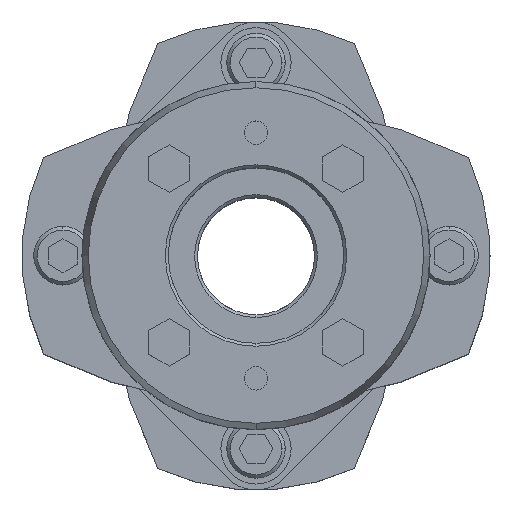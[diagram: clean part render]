
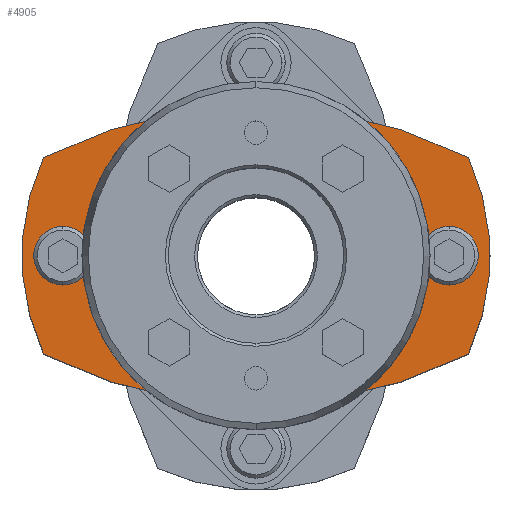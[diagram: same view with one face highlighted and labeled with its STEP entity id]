
A CAD part, top view. The second image highlights one B-rep face of the part: STEP entity #4905.
In plain terms, the highlighted planar face has unit normal (0, 0, 1).
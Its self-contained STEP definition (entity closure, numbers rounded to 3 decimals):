
#2207=CARTESIAN_POINT('',(0.,25.5,19.25));
#2208=VERTEX_POINT('',#2207);
#2224=CARTESIAN_POINT('',(-36.307,16.787,19.25));
#2225=VERTEX_POINT('',#2224);
#2232=CARTESIAN_POINT('',(0.,-54.5,19.25));
#2233=DIRECTION('',(0.0,0.0,-1.0));
#2234=DIRECTION('',(0.,1.0,0.0));
#2235=AXIS2_PLACEMENT_3D('',#2232,#2233,#2234);
#2236=CIRCLE('',#2235,80.);
#2237=EDGE_CURVE('',#2225,#2208,#2236,.T.);
#2247=CARTESIAN_POINT('',(0.,-25.5,19.25));
#2248=VERTEX_POINT('',#2247);
#2257=CARTESIAN_POINT('',(-36.307,-16.787,19.25));
#2258=VERTEX_POINT('',#2257);
#2259=CARTESIAN_POINT('',(0.,54.5,19.25));
#2260=DIRECTION('',(0.0,0.0,-1.0));
#2261=DIRECTION('',(0.,1.0,0.0));
#2262=AXIS2_PLACEMENT_3D('',#2259,#2260,#2261);
#2263=CIRCLE('',#2262,80.);
#2264=EDGE_CURVE('',#2248,#2258,#2263,.T.);
#2481=CARTESIAN_POINT('',(0.,25.,19.25));
#2482=VERTEX_POINT('',#2481);
#2532=CARTESIAN_POINT('',(0.,-25.,19.25));
#2533=VERTEX_POINT('',#2532);
#2540=CARTESIAN_POINT('',(0.,0.,19.25));
#2541=DIRECTION('',(0.0,0.0,-1.0));
#2542=DIRECTION('',(0.,1.0,0.0));
#2543=AXIS2_PLACEMENT_3D('',#2540,#2541,#2542);
#2544=CIRCLE('',#2543,25.0);
#2545=EDGE_CURVE('',#2482,#2533,#2544,.T.);
#2707=CARTESIAN_POINT('',(-33.,5.,19.25));
#2708=VERTEX_POINT('',#2707);
#2724=CARTESIAN_POINT('',(-33.,-5.,19.25));
#2725=VERTEX_POINT('',#2724);
#2732=CARTESIAN_POINT('',(-33.,0.,19.25));
#2733=DIRECTION('',(0.0,0.0,-1.0));
#2734=DIRECTION('',(0.,1.0,0.0));
#2735=AXIS2_PLACEMENT_3D('',#2732,#2733,#2734);
#2736=CIRCLE('',#2735,5.0);
#2737=EDGE_CURVE('',#2708,#2725,#2736,.T.);
#2781=CARTESIAN_POINT('',(33.,5.,19.25));
#2782=VERTEX_POINT('',#2781);
#2798=CARTESIAN_POINT('',(33.,-5.,19.25));
#2799=VERTEX_POINT('',#2798);
#2806=CARTESIAN_POINT('',(33.,0.,19.25));
#2807=DIRECTION('',(0.0,0.0,-1.0));
#2808=DIRECTION('',(0.,1.0,0.0));
#2809=AXIS2_PLACEMENT_3D('',#2806,#2807,#2808);
#2810=CIRCLE('',#2809,5.0);
#2811=EDGE_CURVE('',#2782,#2799,#2810,.T.);
#3350=CARTESIAN_POINT('',(33.,0.,19.25));
#3351=DIRECTION('',(0.0,0.0,-1.0));
#3352=DIRECTION('',(0.,1.0,0.0));
#3353=AXIS2_PLACEMENT_3D('',#3350,#3351,#3352);
#3354=CIRCLE('',#3353,5.0);
#3355=EDGE_CURVE('',#2799,#2782,#3354,.T.);
#3410=CARTESIAN_POINT('',(-33.,0.,19.25));
#3411=DIRECTION('',(0.0,0.0,-1.0));
#3412=DIRECTION('',(0.,1.0,0.0));
#3413=AXIS2_PLACEMENT_3D('',#3410,#3411,#3412);
#3414=CIRCLE('',#3413,5.0);
#3415=EDGE_CURVE('',#2725,#2708,#3414,.T.);
#4608=CARTESIAN_POINT('',(0.,0.,19.25));
#4609=DIRECTION('',(0.0,0.0,-1.0));
#4610=DIRECTION('',(0.,1.0,0.0));
#4611=AXIS2_PLACEMENT_3D('',#4608,#4609,#4610);
#4612=CIRCLE('',#4611,25.0);
#4613=EDGE_CURVE('',#2533,#2482,#4612,.T.);
#4801=CARTESIAN_POINT('',(36.307,-16.787,19.25));
#4802=VERTEX_POINT('',#4801);
#4809=CARTESIAN_POINT('',(0.,54.5,19.25));
#4810=DIRECTION('',(0.0,0.0,-1.0));
#4811=DIRECTION('',(0.,1.0,0.0));
#4812=AXIS2_PLACEMENT_3D('',#4809,#4810,#4811);
#4813=CIRCLE('',#4812,80.);
#4814=EDGE_CURVE('',#4802,#2248,#4813,.T.);
#4824=CARTESIAN_POINT('',(0.,0.,19.25));
#4825=DIRECTION('',(0.0,0.0,-1.0));
#4826=DIRECTION('',(0.,1.0,0.0));
#4827=AXIS2_PLACEMENT_3D('',#4824,#4825,#4826);
#4828=CIRCLE('',#4827,40.);
#4829=EDGE_CURVE('',#2258,#2225,#4828,.T.);
#4843=CARTESIAN_POINT('',(36.307,16.787,19.25));
#4844=VERTEX_POINT('',#4843);
#4845=CARTESIAN_POINT('',(0.,-54.5,19.25));
#4846=DIRECTION('',(0.0,0.0,-1.0));
#4847=DIRECTION('',(0.,1.0,0.0));
#4848=AXIS2_PLACEMENT_3D('',#4845,#4846,#4847);
#4849=CIRCLE('',#4848,80.);
#4850=EDGE_CURVE('',#2208,#4844,#4849,.T.);
#4867=CARTESIAN_POINT('',(0.,0.,19.25));
#4868=DIRECTION('',(0.0,0.0,-1.0));
#4869=DIRECTION('',(0.,1.0,0.0));
#4870=AXIS2_PLACEMENT_3D('',#4867,#4868,#4869);
#4871=CIRCLE('',#4870,40.);
#4872=EDGE_CURVE('',#4844,#4802,#4871,.T.);
#4880=CARTESIAN_POINT('',(0.,0.,19.25));
#4881=DIRECTION('',(0.0,0.0,1.0));
#4882=DIRECTION('',(0.,1.0,0.0));
#4883=AXIS2_PLACEMENT_3D('',#4880,#4881,#4882);
#4884=PLANE('',#4883);
#4885=ORIENTED_EDGE('',*,*,#4814,.F.);
#4886=ORIENTED_EDGE('',*,*,#4872,.F.);
#4887=ORIENTED_EDGE('',*,*,#4850,.F.);
#4888=ORIENTED_EDGE('',*,*,#2237,.F.);
#4889=ORIENTED_EDGE('',*,*,#4829,.F.);
#4890=ORIENTED_EDGE('',*,*,#2264,.F.);
#4891=EDGE_LOOP('',(#4885,#4886,#4887,#4888,#4889,#4890));
#4892=FACE_OUTER_BOUND('',#4891,.T.);
#4893=ORIENTED_EDGE('',*,*,#2737,.T.);
#4894=ORIENTED_EDGE('',*,*,#3415,.T.);
#4895=EDGE_LOOP('',(#4893,#4894));
#4896=FACE_BOUND('',#4895,.T.);
#4897=ORIENTED_EDGE('',*,*,#2811,.T.);
#4898=ORIENTED_EDGE('',*,*,#3355,.T.);
#4899=EDGE_LOOP('',(#4897,#4898));
#4900=FACE_BOUND('',#4899,.T.);
#4901=ORIENTED_EDGE('',*,*,#2545,.T.);
#4902=ORIENTED_EDGE('',*,*,#4613,.T.);
#4903=EDGE_LOOP('',(#4901,#4902));
#4904=FACE_BOUND('',#4903,.T.);
#4905=ADVANCED_FACE('',(#4892,#4896,#4900,#4904),#4884,.T.);
